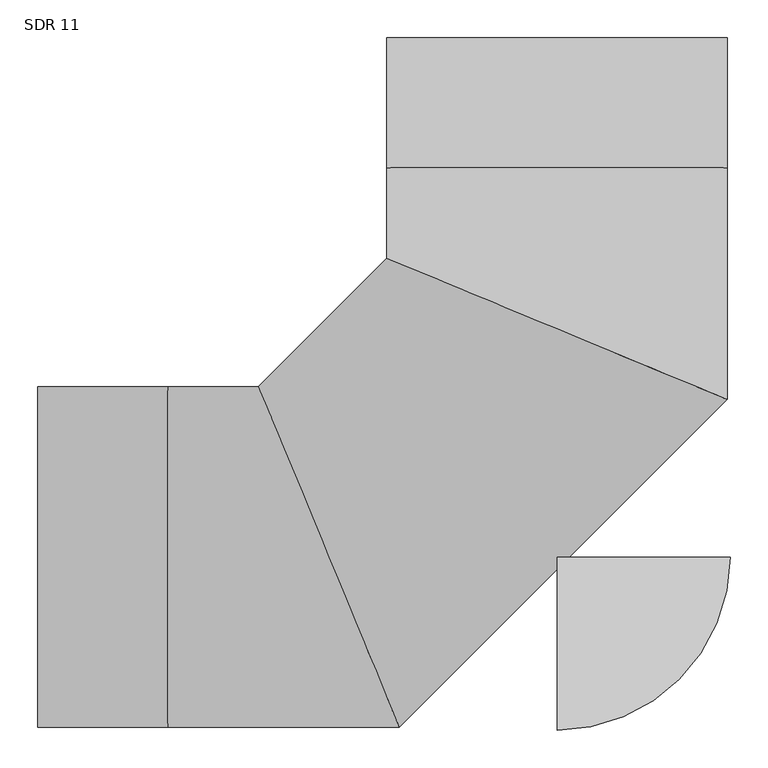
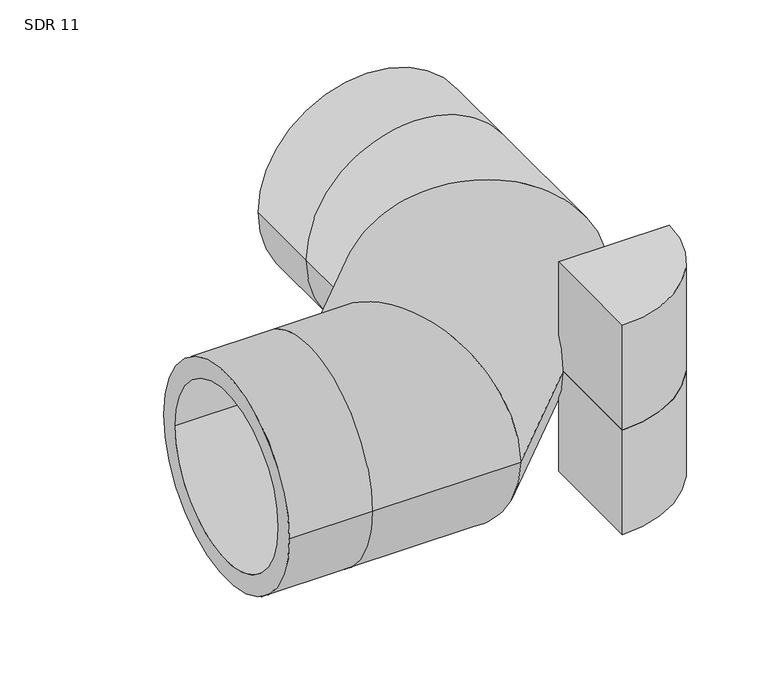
"""IFC4 building model written with IfcOpenShell, lengths in millimetres: pipe fitting geometry, Aquatherm - Elbow Blue BW Segmented : SDR 11."""

from ifc_helpers import new_model, si_unit, point, frame, origin, origin_with_axes, origin_2d, place, context, project, spatial, polyline, circle_curve, ellipse_curve, trimmed, segment, composite_curve, outline, extrude, source, transform, mapped, element, save
from ifc_brep_helpers import plane_surface, cylinder_surface, revolved_surface, advanced_brep


def sdr_11_5f3c70af(model_context):
    return source(origin(), model_context, "Body", "SolidModel", [
        extrude(outline(composite_curve([segment(polyline([(0.0, -228.6), (0.0, 0.0), (228.6, 0.0)]), True, "CONTINUOUS"), segment(trimmed(circle_curve(origin_2d(), 228.6), [point((228.6, 0.0))], [point((0.0, -228.6))], False, "CARTESIAN"), True, "CONTINUOUS")], self_intersect=False)), frame((0.0, 0.0, -228.6), z_axis=(0.0, 0.0, 1.0), x_axis=(1.0, 0.0, 0.0)), (0.0, 0.0, 1.0), 228.6),
        extrude(outline(composite_curve([segment(trimmed(circle_curve(origin_2d(), 228.6), [point((228.6, 0.0))], [point((0.0, -228.6))], False, "CARTESIAN"), True, "CONTINUOUS"), segment(polyline([(0.0, -228.6), (0.0, 0.0), (228.6, 0.0)]), True, "CONTINUOUS")], self_intersect=False)), origin_with_axes(), (0.0, 0.0, 1.0), 228.6),
        advanced_brep(
        [(-685.8, -224.79, 0.0), (-685.8, 224.79, 0.0), (-685.8, -183.9190909, 0.0), (-685.8, 183.9190909, 0.0), (224.79, 685.8, 0.0), (-224.79, 685.8, 0.0), (183.9190909, 685.8, 0.0), (-183.9190909, 685.8, 0.0), (-514.35, -224.79, 0.0), (-514.35, 224.79, 0.0), (-514.35, -183.9190909, 0.0), (-514.35, 183.9190909, 0.0), (-208.1881875, -224.79, 0.0), (-394.4103209, 224.79, 0.0), (-225.1174724, -183.9190909, 0.0), (-377.481036, 183.9190909, 0.0), (224.79, 208.1881875, 0.0), (-224.79, 394.4103209, 0.0), (183.9190909, 225.1174724, 0.0), (-183.9190909, 377.481036, 0.0), (-224.79, 514.35, 0.0), (224.79, 514.35, 0.0), (-183.9190909, 514.35, 0.0), (183.9190909, 514.35, 0.0)],
        [
            (0, 1, circle_curve(frame((-685.8, 0.0, 0.0), z_axis=(-1.0, 0.0, 0.0), x_axis=(0.0, 1.0, 0.0)), 224.79)),
            (1, 0, circle_curve(frame((-685.8, 0.0, 0.0), z_axis=(-1.0, 0.0, 0.0), x_axis=(0.0, 1.0, 0.0)), 224.79)),
            (2, 3, circle_curve(frame((-685.8, 0.0, 0.0), z_axis=(1.0, 0.0, 0.0), x_axis=(0.0, 1.0, 0.0)), 183.9190909)),
            (3, 2, circle_curve(frame((-685.8, 0.0, 0.0), z_axis=(1.0, 0.0, 0.0), x_axis=(0.0, 1.0, 0.0)), 183.9190909)),
            (4, 5, circle_curve(frame((0.0, 685.8, 0.0), z_axis=(0.0, 1.0, 0.0), x_axis=(-1.0, 0.0, 0.0)), 224.79)),
            (5, 4, circle_curve(frame((0.0, 685.8, 0.0), z_axis=(0.0, 1.0, 0.0), x_axis=(-1.0, 0.0, 0.0)), 224.79)),
            (6, 7, circle_curve(frame((0.0, 685.8, 0.0), z_axis=(0.0, -1.0, 0.0), x_axis=(-1.0, 0.0, 0.0)), 183.9190909)),
            (7, 6, circle_curve(frame((0.0, 685.8, 0.0), z_axis=(0.0, -1.0, 0.0), x_axis=(-1.0, 0.0, 0.0)), 183.9190909)),
            (0, 8),
            (8, 9, circle_curve(frame((-514.35, 0.0, 0.0), z_axis=(-1.0, 0.0, 0.0), x_axis=(0.0, 1.0, 0.0)), 224.79)),
            (9, 1),
            (9, 8, circle_curve(frame((-514.35, 0.0, 0.0), z_axis=(-1.0, 0.0, 0.0), x_axis=(0.0, 1.0, 0.0)), 224.79)),
            (2, 10),
            (10, 11, circle_curve(frame((-514.35, 0.0, 0.0), z_axis=(1.0, 0.0, 0.0), x_axis=(0.0, 1.0, 0.0)), 183.9190909)),
            (11, 3),
            (11, 10, circle_curve(frame((-514.35, 0.0, 0.0), z_axis=(1.0, 0.0, 0.0), x_axis=(0.0, 1.0, 0.0)), 183.9190909)),
            (8, 12),
            (12, 13, ellipse_curve(frame((-301.2992542, 0.0, 0.0), z_axis=(-0.9238795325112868, -0.3826834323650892, 0.0), x_axis=(-0.3826834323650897, 0.9238795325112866, 0.0)), 243.3109427, 224.79)),
            (13, 9),
            (13, 12, ellipse_curve(frame((-301.2992542, 0.0, 0.0), z_axis=(-0.9238795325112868, -0.3826834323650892, 0.0), x_axis=(-0.3826834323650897, 0.9238795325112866, 0.0)), 243.3109427, 224.79)),
            (10, 14),
            (14, 15, ellipse_curve(frame((-301.2992542, 0.0, 0.0), z_axis=(0.9238795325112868, 0.3826834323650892, 0.0), x_axis=(0.3826834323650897, -0.9238795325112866, 0.0)), 199.0725895, 183.9190909)),
            (15, 11),
            (15, 14, ellipse_curve(frame((-301.2992542, 0.0, 0.0), z_axis=(0.9238795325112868, 0.3826834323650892, 0.0), x_axis=(0.3826834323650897, -0.9238795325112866, 0.0)), 199.0725895, 183.9190909)),
            (12, 16),
            (16, 17, ellipse_curve(frame((0.0, 301.2992542, 0.0), z_axis=(-0.38268343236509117, -0.9238795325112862, 0.0), x_axis=(-0.9238795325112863, 0.3826834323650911, 0.0)), 243.3109427, 224.79)),
            (17, 13),
            (17, 16, ellipse_curve(frame((0.0, 301.2992542, 0.0), z_axis=(-0.38268343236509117, -0.9238795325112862, 0.0), x_axis=(-0.9238795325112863, 0.3826834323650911, 0.0)), 243.3109427, 224.79)),
            (14, 18),
            (18, 19, ellipse_curve(frame((0.0, 301.2992542, 0.0), z_axis=(0.38268343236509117, 0.9238795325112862, 0.0), x_axis=(0.9238795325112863, -0.3826834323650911, 0.0)), 199.0725895, 183.9190909)),
            (19, 15),
            (19, 18, ellipse_curve(frame((0.0, 301.2992542, 0.0), z_axis=(0.38268343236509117, 0.9238795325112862, 0.0), x_axis=(0.9238795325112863, -0.3826834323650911, 0.0)), 199.0725895, 183.9190909)),
            (20, 21, circle_curve(frame((0.0, 514.35, 0.0), z_axis=(0.0, 1.0, 0.0), x_axis=(-1.0, 0.0, 0.0)), 224.79)),
            (21, 4),
            (5, 20),
            (21, 20, circle_curve(frame((0.0, 514.35, 0.0), z_axis=(0.0, 1.0, 0.0), x_axis=(-1.0, 0.0, 0.0)), 224.79)),
            (22, 23, circle_curve(frame((0.0, 514.35, 0.0), z_axis=(0.0, -1.0, 0.0), x_axis=(-1.0, 0.0, 0.0)), 183.9190909)),
            (23, 6),
            (7, 22),
            (23, 22, circle_curve(frame((0.0, 514.35, 0.0), z_axis=(0.0, -1.0, 0.0), x_axis=(-1.0, 0.0, 0.0)), 183.9190909)),
            (16, 21),
            (20, 17),
            (18, 23),
            (22, 19),
        ],
        [
            plane_surface(frame((-685.8, 0.0, 0.0), z_axis=(-1.0, 0.0, 0.0), x_axis=(0.0, 0.0, 1.0))),
            plane_surface(frame((0.0, 685.8, 0.0), z_axis=(0.0, 1.0, 0.0), x_axis=(0.0, 0.0, 1.0))),
            cylinder_surface(frame((-685.8, 0.0, 0.0), z_axis=(-1.0, 0.0, 0.0), x_axis=(0.0, 1.0, 0.0)), 224.79),
            revolved_surface(polyline([(-514.35, 183.9190909, 0.0), (-685.8, 183.9190909, 0.0)]), (-685.8, 0.0, 0.0), (1.0, 0.0, 0.0)),
            cylinder_surface(frame((-514.35, 0.0, 0.0), z_axis=(-1.0, 0.0, 0.0), x_axis=(0.0, 1.0, 0.0)), 224.79),
            revolved_surface(polyline([(-225.11747236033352, 183.9190909, 0.0), (-514.35, 183.9190909, 0.0)]), (-514.35, 0.0, 0.0), (1.0, 0.0, 0.0)),
            cylinder_surface(frame((-301.2992542, 0.0, 0.0), z_axis=(-0.7071067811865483, -0.7071067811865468, 0.0), x_axis=(-0.7071067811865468, 0.7071067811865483, 0.0)), 224.79),
            revolved_surface(polyline([(-76.18178181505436, 485.21834511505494, 0.0), (-485.21834511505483, 76.18178181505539, 0.0)]), (-301.2992542, 0.0, 0.0), (0.7071067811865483, 0.7071067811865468, 0.0)),
            cylinder_surface(frame((0.0, 514.35, 0.0), z_axis=(0.0, -1.0, 0.0), x_axis=(-1.0, 0.0, 0.0)), 224.79),
            revolved_surface(polyline([(-183.9190909, 685.8, 0.0), (-183.9190909, 514.35, 0.0)]), (0.0, 514.35, 0.0), (0.0, 1.0, 0.0)),
            cylinder_surface(frame((0.0, 301.2992542, 0.0), z_axis=(0.0, -1.0, 0.0), x_axis=(-1.0, 0.0, 0.0)), 224.79),
            revolved_surface(polyline([(-183.9190909, 514.35, 0.0), (-183.9190909, 225.1174723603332, 0.0)]), (0.0, 301.2992542, 0.0), (0.0, 1.0, 0.0)),
        ],
        [
            (0, [[1, 2], [3, 4]]),
            (1, [[5, 6], [7, 8]]),
            (2, [[-1, 9, 10, 11]]),
            (2, [[-2, -11, 12, -9]]),
            (3, [[-3, 13, 14, 15]]),
            (3, [[-4, -15, 16, -13]]),
            (4, [[-10, 17, 18, 19]]),
            (4, [[-12, -19, 20, -17]]),
            (5, [[-14, 21, 22, 23]]),
            (5, [[-16, -23, 24, -21]]),
            (6, [[-18, 25, 26, 27]]),
            (6, [[-20, -27, 28, -25]]),
            (7, [[-22, 29, 30, 31]]),
            (7, [[-24, -31, 32, -29]]),
            (8, [[33, 34, -6, 35]]),
            (8, [[36, -35, -5, -34]]),
            (9, [[37, 38, -8, 39]]),
            (9, [[40, -39, -7, -38]]),
            (10, [[-26, 41, -33, 42]]),
            (10, [[-28, -42, -36, -41]]),
            (11, [[-30, 43, -37, 44]]),
            (11, [[-32, -44, -40, -43]]),
        ],
    ),
    ])


if __name__ == "__main__":
    model = new_model("IFC4")
    model_context = context("Model", 3, world=origin())
    ifc_project = project(units=[si_unit("LENGTHUNIT", "METRE", prefix="MILLI")], contexts=[model_context])
    site = spatial("IfcSite", under=ifc_project)
    building = spatial("IfcBuilding", under=site)
    placement = place(None, origin())
    sdr_11_shape = sdr_11_5f3c70af(model_context)
    element("IfcPipeFitting", 1, ObjectType="Aquatherm - Elbow Blue BW Segmented : SDR 11", at=placement, inside=building, context=model_context, shape_type="MappedRepresentation", body=[
        mapped(sdr_11_shape, transform((0.0, 0.0, 0.0), x_axis=(1.0, 0.0, 0.0), y_axis=(0.0, 1.0, 0.0), z_axis=(0.0, 0.0, 1.0))),
    ])
    save(model, "model.ifc")
